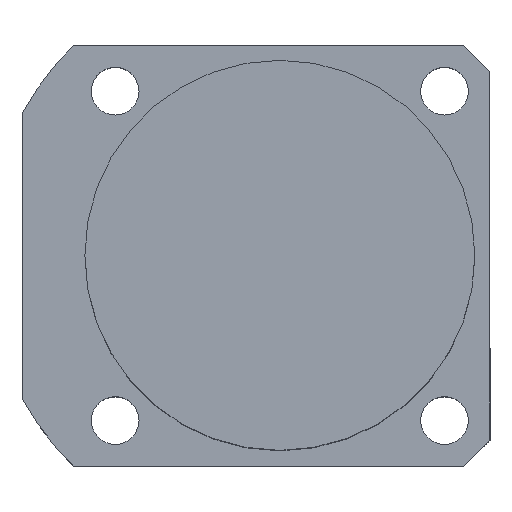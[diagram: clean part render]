
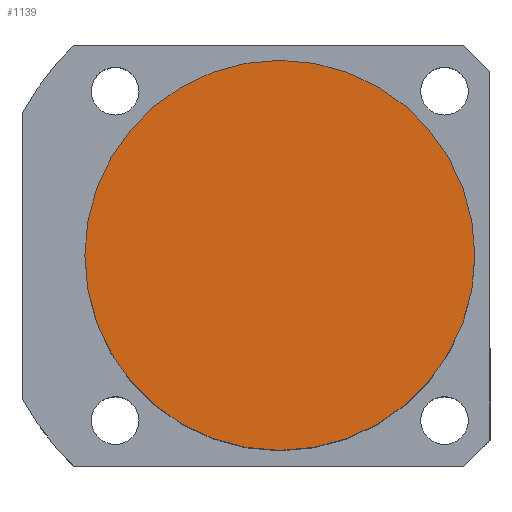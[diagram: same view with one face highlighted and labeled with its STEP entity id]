
A CAD part, top view. The second image highlights one B-rep face of the part: STEP entity #1139.
In plain terms, the highlighted planar face has unit normal (0, 0, 1).
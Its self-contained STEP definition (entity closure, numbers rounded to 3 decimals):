
#5 = DIRECTION ( 'NONE',  ( 0., 0., 1. ) ) ;
#40 = AXIS2_PLACEMENT_3D ( 'NONE', #410, #389, #1760 ) ;
#81 = CIRCLE ( 'NONE', #1772, 45. ) ;
#90 = VERTEX_POINT ( 'NONE', #917 ) ;
#98 = CARTESIAN_POINT ( 'NONE',  ( 0., 0., 84.5 ) ) ;
#251 = EDGE_CURVE ( 'NONE', #891, #90, #81, .T. ) ;
#379 = ORIENTED_EDGE ( 'NONE', *, *, #251, .T. ) ;
#389 = DIRECTION ( 'NONE',  ( 0., 0., 1. ) ) ;
#399 = DIRECTION ( 'NONE',  ( 1., 0., 0. ) ) ;
#410 = CARTESIAN_POINT ( 'NONE',  ( 0., 0., 84.5 ) ) ;
#507 = CARTESIAN_POINT ( 'NONE',  ( 0., 0., 84.5 ) ) ;
#521 = CARTESIAN_POINT ( 'NONE',  ( 45., 0., 84.5 ) ) ;
#541 = EDGE_LOOP ( 'NONE', ( #989, #379 ) ) ;
#619 = FACE_OUTER_BOUND ( 'NONE', #541, .T. ) ;
#632 = PLANE ( 'NONE',  #1453 ) ;
#891 = VERTEX_POINT ( 'NONE', #521 ) ;
#917 = CARTESIAN_POINT ( 'NONE',  ( -45., 0., 84.5 ) ) ;
#989 = ORIENTED_EDGE ( 'NONE', *, *, #1265, .T. ) ;
#1139 = ADVANCED_FACE ( 'NONE', ( #619 ), #632, .T. ) ;
#1153 = CIRCLE ( 'NONE', #40, 45. ) ;
#1265 = EDGE_CURVE ( 'NONE', #90, #891, #1153, .T. ) ;
#1453 = AXIS2_PLACEMENT_3D ( 'NONE', #98, #1751, #1484 ) ;
#1484 = DIRECTION ( 'NONE',  ( 1., 0., 0. ) ) ;
#1751 = DIRECTION ( 'NONE',  ( 0., 0., 1. ) ) ;
#1760 = DIRECTION ( 'NONE',  ( 1., 0., 0. ) ) ;
#1772 = AXIS2_PLACEMENT_3D ( 'NONE', #507, #5, #399 ) ;
